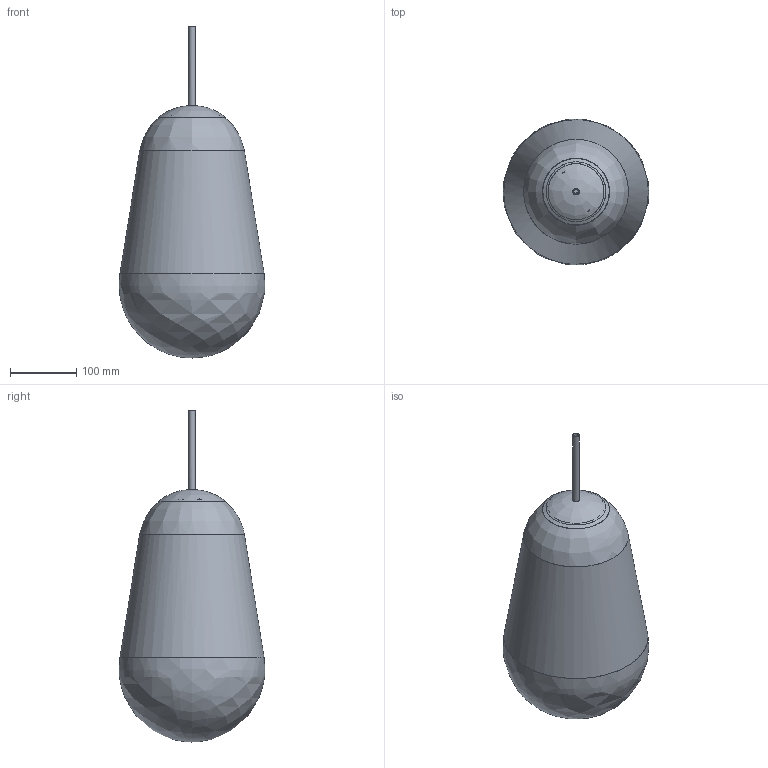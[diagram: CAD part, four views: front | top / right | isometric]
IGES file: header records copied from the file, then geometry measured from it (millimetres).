
Start section: SolidWorks IGES file using NURBS representation for surfaces
Global section: file name: Z:\Modele 3D_WWW\_CAMELEON\KLOSZE I OPRAWY WWW\Cameleon-PEAR\8533\PEAR_M_8533.IGS; native system: SolidWorks 2021; preprocessor: SolidWorks 2021; author: gabriela.tworek; date: 211220.134155; units: millimetre
Bounding box: 219.92 x 219.92 x 500.65 mm (x, y, z)
Surface area: 481883.8 mm2 (no closed solid volume)
Topology: 0 solids, 0 shells, 36 faces, 178 edges, 156 vertices
Faces by surface type: bspline 36
